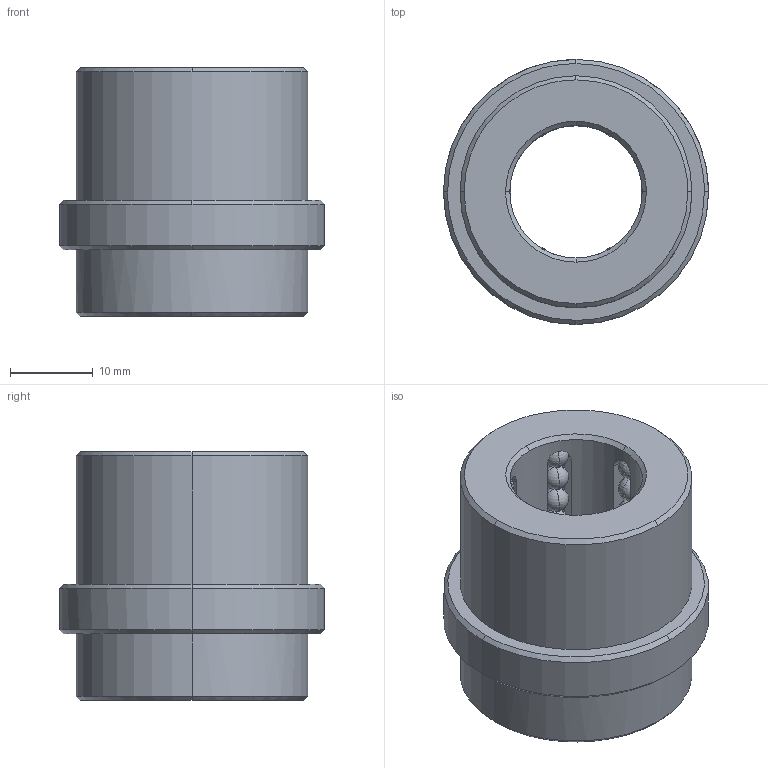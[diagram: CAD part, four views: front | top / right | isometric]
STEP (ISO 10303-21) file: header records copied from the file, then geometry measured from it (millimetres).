
FILE_DESCRIPTION(('CATIA V5 STEP Exchange'),'2;1');
FILE_NAME('C:\Users\Raffaele\Desktop\3D BOLEX\3D FILES CF BOLEX\2-BUSH REF 802\B8021622.stp','2019-06-19T13:59:02+00:00',('none'),('none'),'CATIA Version 5 Release 20 GA (IN-10)','CATIA V5 STEP AP203','none');
FILE_SCHEMA(('CONFIG_CONTROL_DESIGN'));
Length unit declared in the file: millimetre
Products named in the file (1): B8021622
Bounding box: 32 x 32 x 30 mm (x, y, z)
Volume: 12882.1 mm3; surface area: 7624.6 mm2
Topology: 49 solids, 49 shells, 258 faces, 738 edges, 200 vertices
Faces by surface type: sphere 192, cone 24, plane 22, cylinder 20
Entity records: 5479 total; most frequent: CARTESIAN_POINT 1258, DIRECTION 835, ORIENTED_EDGE 708, AXIS2_PLACEMENT_3D 496, EDGE_CURVE 354, EDGE_LOOP 266, ADVANCED_FACE 258, FACE_OUTER_BOUND 258
